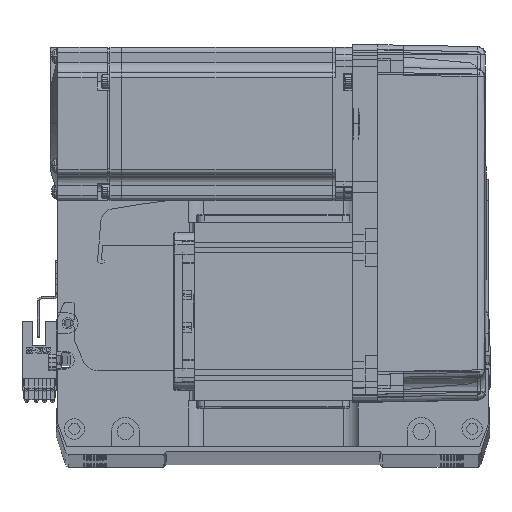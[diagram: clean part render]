
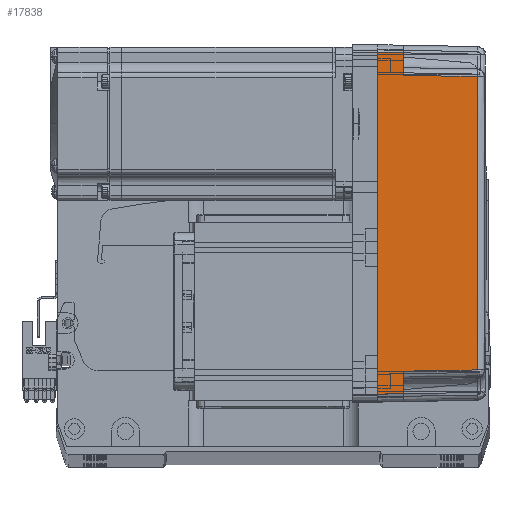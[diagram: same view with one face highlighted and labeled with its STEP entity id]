
A CAD part, top view. The second image highlights one B-rep face of the part: STEP entity #17838.
In plain terms, the highlighted planar face has unit normal (0.018, 0, 1) as drawn and (0, -1, 0.017) by its records, which use the part's own axes.
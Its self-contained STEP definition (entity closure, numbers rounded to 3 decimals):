
#1280 = CARTESIAN_POINT ( 'NONE',  ( -67., -36., 0. ) ) ;
#2709 = VECTOR ( 'NONE', #31450, 1000. ) ;
#3107 = CARTESIAN_POINT ( 'NONE',  ( 67., -36., 0. ) ) ;
#3130 = VERTEX_POINT ( 'NONE', #63637 ) ;
#3301 = EDGE_CURVE ( 'NONE', #46348, #9574, #48590, .T. ) ;
#4002 = DIRECTION ( 'NONE',  ( 0., -1., 0.017 ) ) ;
#6178 = VECTOR ( 'NONE', #55891, 1000. ) ;
#6455 = DIRECTION ( 'NONE',  ( -0.017, -0.017, -1. ) ) ;
#9194 = LINE ( 'NONE', #48361, #11702 ) ;
#9574 = VERTEX_POINT ( 'NONE', #24660 ) ;
#11702 = VECTOR ( 'NONE', #39308, 1000. ) ;
#14564 = EDGE_CURVE ( 'NONE', #26341, #3130, #48446, .T. ) ;
#14585 = CARTESIAN_POINT ( 'NONE',  ( 0., -36., 0. ) ) ;
#14915 = CARTESIAN_POINT ( 'NONE',  ( 67., -36., 0. ) ) ;
#15511 = ORIENTED_EDGE ( 'NONE', *, *, #55686, .T. ) ;
#15797 = VERTEX_POINT ( 'NONE', #3107 ) ;
#17031 = ORIENTED_EDGE ( 'NONE', *, *, #28531, .F. ) ;
#17838 = ADVANCED_FACE ( 'NONE', ( #55726 ), #46281, .T. ) ;
#18687 = CARTESIAN_POINT ( 'NONE',  ( -57.495, -35.32, 38.985 ) ) ;
#20098 = CARTESIAN_POINT ( 'NONE',  ( -66.959, -35.958, 2.39 ) ) ;
#21177 = CARTESIAN_POINT ( 'NONE',  ( 19.165, -35.316, 39.181 ) ) ;
#22190 = CARTESIAN_POINT ( 'NONE',  ( -58., -35.825, 10. ) ) ;
#22719 = EDGE_LOOP ( 'NONE', ( #51954, #15511, #53751, #30517, #57955, #53689, #17031, #36607 ) ) ;
#22755 = EDGE_CURVE ( 'NONE', #32515, #46348, #56501, .T. ) ;
#22980 = VECTOR ( 'NONE', #57998, 1000. ) ;
#23635 = EDGE_CURVE ( 'NONE', #15797, #38656, #38583, .T. ) ;
#24660 = CARTESIAN_POINT ( 'NONE',  ( -66.826, -35.825, 10. ) ) ;
#25679 = DIRECTION ( 'NONE',  ( -1., 0., 0. ) ) ;
#26341 = VERTEX_POINT ( 'NONE', #64027 ) ;
#28531 = EDGE_CURVE ( 'NONE', #38656, #9574, #28848, .T. ) ;
#28848 = LINE ( 'NONE', #20098, #22980 ) ;
#30517 = ORIENTED_EDGE ( 'NONE', *, *, #59361, .T. ) ;
#30829 = B_SPLINE_CURVE_WITH_KNOTS ( 'NONE', 3,
 ( #48170, #21177, #59096, #53630 ),
 .UNSPECIFIED., .F., .F.,
 ( 4, 4 ),
 ( 0., 1. ),
 .UNSPECIFIED. ) ;
#31450 = DIRECTION ( 'NONE',  ( -0.017, 0.017, 1. ) ) ;
#32515 = VERTEX_POINT ( 'NONE', #18687 ) ;
#32775 = VECTOR ( 'NONE', #6455, 1000. ) ;
#35393 = DIRECTION ( 'NONE',  ( 0., -0.017, -1. ) ) ;
#36383 = EDGE_CURVE ( 'NONE', #15797, #37397, #59348, .T. ) ;
#36607 = ORIENTED_EDGE ( 'NONE', *, *, #23635, .F. ) ;
#36915 = AXIS2_PLACEMENT_3D ( 'NONE', #57885, #4002, #35393 ) ;
#37397 = VERTEX_POINT ( 'NONE', #48809 ) ;
#37581 = CARTESIAN_POINT ( 'NONE',  ( 70., -35.825, 10. ) ) ;
#38583 = LINE ( 'NONE', #14585, #64002 ) ;
#38656 = VERTEX_POINT ( 'NONE', #1280 ) ;
#39308 = DIRECTION ( 'NONE',  ( -1., 0., 0. ) ) ;
#44551 = CARTESIAN_POINT ( 'NONE',  ( 58., -35.825, 10. ) ) ;
#46281 = PLANE ( 'NONE',  #36915 ) ;
#46348 = VERTEX_POINT ( 'NONE', #22190 ) ;
#48170 = CARTESIAN_POINT ( 'NONE',  ( 57.495, -35.32, 38.985 ) ) ;
#48361 = CARTESIAN_POINT ( 'NONE',  ( 70., -35.825, 10. ) ) ;
#48428 = DIRECTION ( 'NONE',  ( -1., 0., 0. ) ) ;
#48446 = LINE ( 'NONE', #44551, #6178 ) ;
#48590 = LINE ( 'NONE', #37581, #68124 ) ;
#48809 = CARTESIAN_POINT ( 'NONE',  ( 66.826, -35.825, 10. ) ) ;
#50380 = CARTESIAN_POINT ( 'NONE',  ( -57.495, -35.32, 38.985 ) ) ;
#51954 = ORIENTED_EDGE ( 'NONE', *, *, #36383, .T. ) ;
#53630 = CARTESIAN_POINT ( 'NONE',  ( -57.495, -35.32, 38.985 ) ) ;
#53689 = ORIENTED_EDGE ( 'NONE', *, *, #3301, .T. ) ;
#53751 = ORIENTED_EDGE ( 'NONE', *, *, #14564, .T. ) ;
#55686 = EDGE_CURVE ( 'NONE', #37397, #26341, #9194, .T. ) ;
#55726 = FACE_OUTER_BOUND ( 'NONE', #22719, .T. ) ;
#55891 = DIRECTION ( 'NONE',  ( -0.017, 0.017, 1. ) ) ;
#56501 = LINE ( 'NONE', #50380, #32775 ) ;
#57885 = CARTESIAN_POINT ( 'NONE',  ( 70., -36., 0. ) ) ;
#57955 = ORIENTED_EDGE ( 'NONE', *, *, #22755, .T. ) ;
#57998 = DIRECTION ( 'NONE',  ( 0.017, 0.017, 1. ) ) ;
#59096 = CARTESIAN_POINT ( 'NONE',  ( -19.165, -35.316, 39.181 ) ) ;
#59348 = LINE ( 'NONE', #14915, #2709 ) ;
#59361 = EDGE_CURVE ( 'NONE', #3130, #32515, #30829, .T. ) ;
#63637 = CARTESIAN_POINT ( 'NONE',  ( 57.495, -35.32, 38.985 ) ) ;
#64002 = VECTOR ( 'NONE', #25679, 1000. ) ;
#64027 = CARTESIAN_POINT ( 'NONE',  ( 58., -35.825, 10. ) ) ;
#68124 = VECTOR ( 'NONE', #48428, 1000. ) ;
